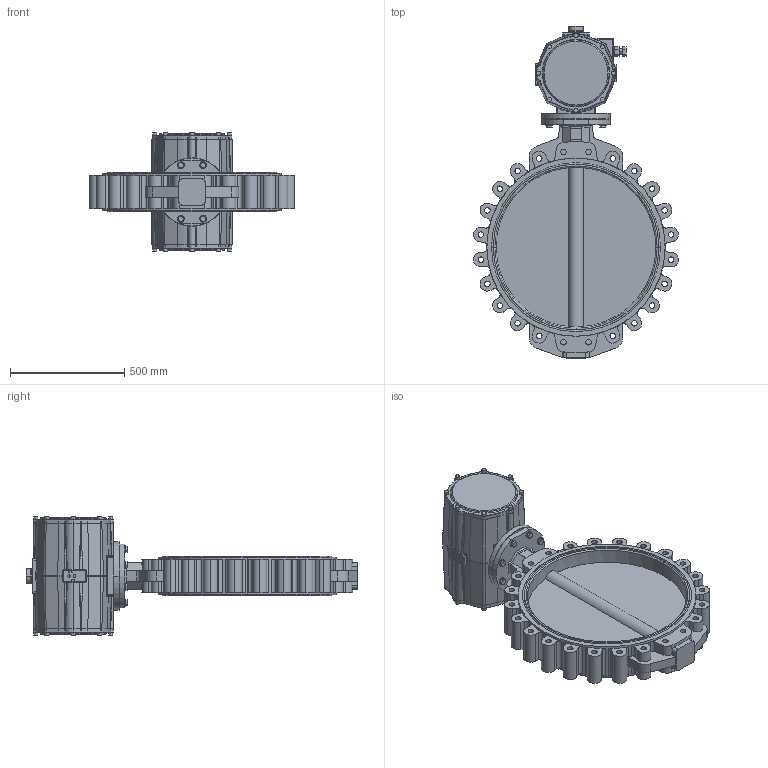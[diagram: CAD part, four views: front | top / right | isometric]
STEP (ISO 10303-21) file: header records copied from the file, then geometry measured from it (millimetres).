
FILE_DESCRIPTION (( 'STEP AP214' ), '1' );
FILE_NAME ('67724.step', '2020-10-26T07:15:23', ( '' ), ( '' ), 'SwSTEP 2.0', 'SolidWorks 2019', '' );
FILE_SCHEMA (( 'AUTOMOTIVE_DESIGN' ));
Length unit declared in the file: millimetre
Products named in the file (7): DA2500-V46_02; 67724; U-Scheibe DIN 125 A_M16; Flanschadapter F25-F16; TL20-0700_M01; 6kt-Schr DIN 933_M16x50; 6kt-Schr DIN 933_M20x35
Assembly tree (23 placements, depth 2):
  67724
    TL20-0700_M01
    DA2500-V46_02
    6kt-Schr DIN 933_M16x50  x8
    U-Scheibe DIN 125 A_M16  x8
    Flanschadapter F25-F16
    6kt-Schr DIN 933_M20x35  x4
Bounding box: 896.78 x 1453 x 518 mm (x, y, z)
Volume: 91379168.8 mm3; surface area: 3748893.7 mm2
Topology: 24 solids, 24 shells, 1541 faces, 3692 edges, 2288 vertices
Faces by surface type: cylinder 569, plane 555, cone 146, torus 139, bspline 116, sphere 16
Entity records: 46664 total; most frequent: CARTESIAN_POINT 12606, DIRECTION 6573, ORIENTED_EDGE 6088, EDGE_CURVE 3044, AXIS2_PLACEMENT_3D 2670, VERTEX_POINT 1912, CIRCLE 1531, EDGE_LOOP 1398
